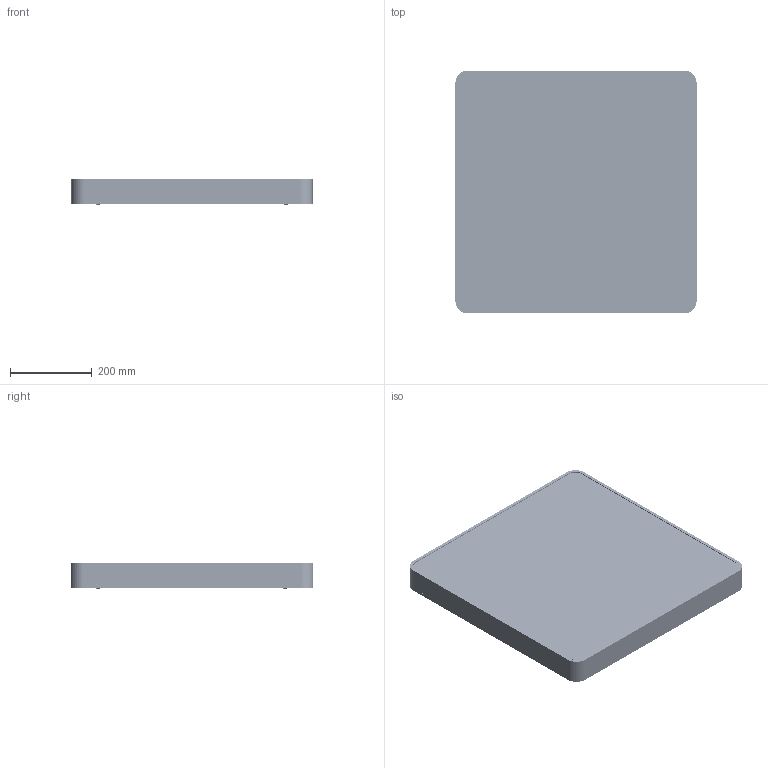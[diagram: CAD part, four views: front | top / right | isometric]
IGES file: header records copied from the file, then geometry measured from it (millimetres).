
Start section: SolidWorks IGES file using analytic representation for surfaces
Global section: file name: \\DC2003\projekty\soft\Profil 3D\Gotowe softy\SOFT 600X600_plafon.IGS; native system: SolidWorks 2016; preprocessor: SolidWorks 2016; author: Asia; date: 160711.120102; units: millimetre
Bounding box: 590.04 x 594.04 x 61.8 mm (x, y, z)
Surface area: 2821517.9 mm2 (no closed solid volume)
Topology: 0 solids, 0 shells, 5751 faces, 55110 edges, 55080 vertices
Faces by surface type: bspline 4102, revolution 1649
